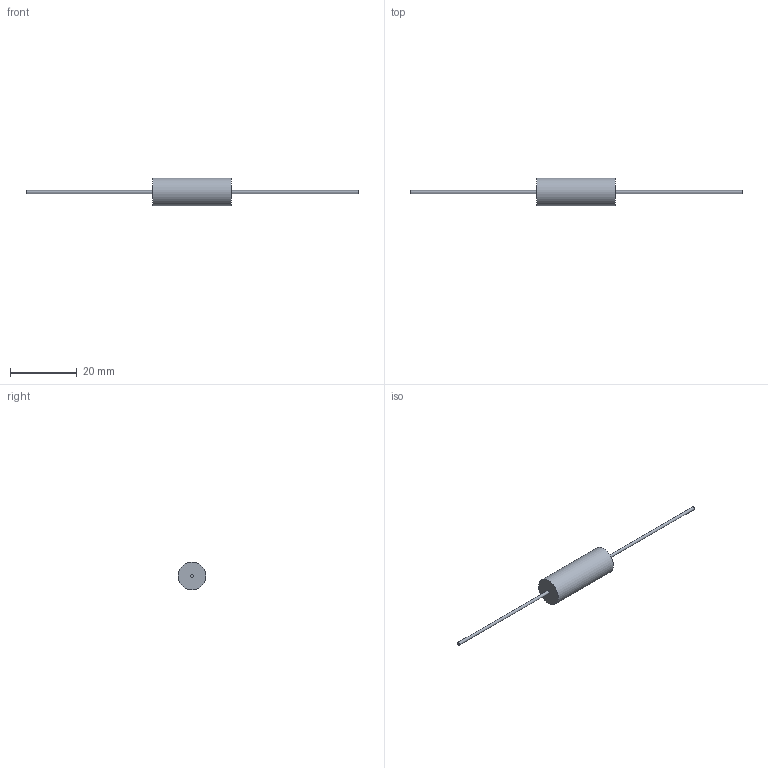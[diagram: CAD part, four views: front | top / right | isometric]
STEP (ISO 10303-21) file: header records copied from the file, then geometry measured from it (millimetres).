
FILE_DESCRIPTION(/* description */ (''),/* implementation_level */ '2;1');
FILE_NAME(/* name */ 'C:\Users\mulla\Documents\SEI Models\Inventor Files\WW_MWW_NWW_WWS\3D\MWW5_NMWW5_stp.stp',/* time_stamp */ '2019-07-10T21:31:52-04:00',/* author */ ('mulla'),/* organization */ (''),/* preprocessor_version */ 'ST-DEVELOPER v16.1',/* originating_system */ 'Autodesk Inventor 2016',/* authorisation */ '');
FILE_SCHEMA (('AUTOMOTIVE_DESIGN { 1 0 10303 214 3 1 1 }'));
Length unit declared in the file: millimetre
Products named in the file (1): MWW5_NMWW5
Bounding box: 99.7 x 8.38 x 8.38 mm (x, y, z)
Volume: 1345.7 mm3; surface area: 949.4 mm2
Topology: 3 solids, 3 shells, 9 faces, 9 edges, 6 vertices
Faces by surface type: plane 6, cylinder 3
Full cylindrical faces by diameter (mm): 0.91 x2, 8.38 x1
Entity records: 199 total; most frequent: DIRECTION 32, CARTESIAN_POINT 22, AXIS2_PLACEMENT_3D 16, EDGE_LOOP 12, ORIENTED_EDGE 12, STYLED_ITEM 12, FACE_OUTER_BOUND 9, ADVANCED_FACE 9
